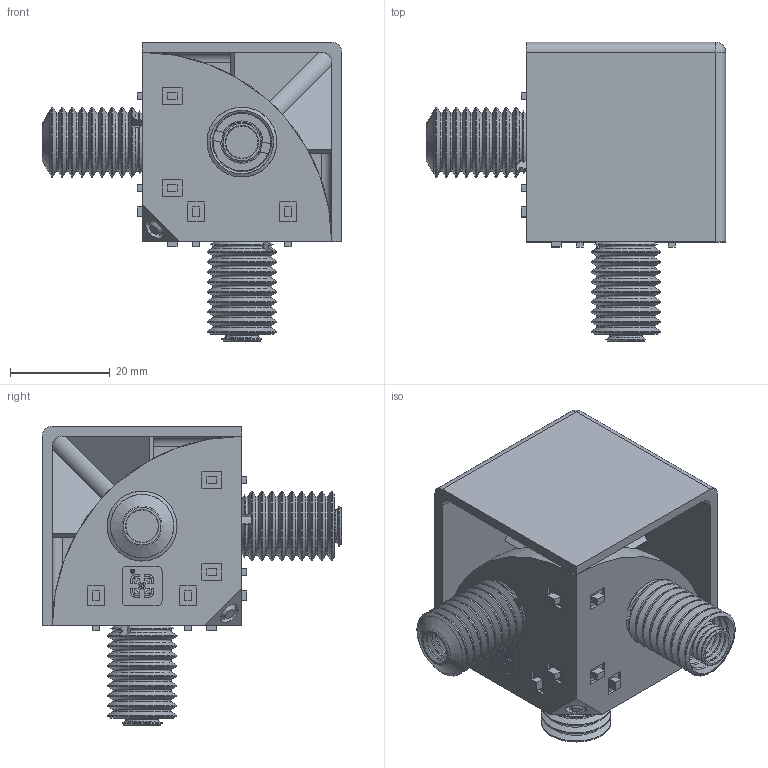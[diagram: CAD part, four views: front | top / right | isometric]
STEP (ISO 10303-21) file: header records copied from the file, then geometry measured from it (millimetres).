
FILE_DESCRIPTION(/* description */ ('STEP AP203'),/* implementation_level */ '2;1');
FILE_NAME(/* name */ 'C:\Users\Stefan.Nesic\Desktop\01010STEP\000Verifica\CORRETTI\PCR40-02FI.stp',/* time_stamp */ '2022-07-12T11:39:01+02:00',/* author */ ('user'),/* organization */ (''),/* preprocessor_version */ 'ST-DEVELOPER v18.1',/* originating_system */ 'Autodesk Inventor 2021',/* authorisation */ '');
FILE_SCHEMA (('AUTOMOTIVE_DESIGN { 1 0 10303 214 3 1 1 }'));
Length unit declared in the file: millimetre
Products named in the file (1): PCR40-02FI
Bounding box: 60 x 60 x 60 mm (x, y, z)
Volume: 31944.6 mm3; surface area: 27280.7 mm2
Topology: 8 solids, 8 shells, 834 faces, 2137 edges, 1363 vertices
Faces by surface type: plane 386, cone 196, cylinder 151, torus 90, bspline 10, sphere 1
Full cylindrical faces by diameter (mm): 0.572 x1, 0.694 x1, 0.716 x1, 0.867 x2, 1.084 x1, 4 x1, 4.3 x1, 8 x48, 8.5 x3, 14 x27, 15.24 x3
Entity records: 26323 total; most frequent: CARTESIAN_POINT 5705, DIRECTION 4421, ORIENTED_EDGE 4266, EDGE_CURVE 2133, AXIS2_PLACEMENT_3D 1597, VERTEX_POINT 1363, LINE 1227, VECTOR 1227
